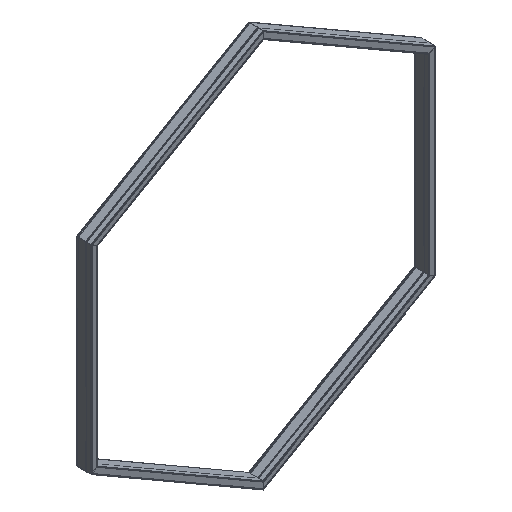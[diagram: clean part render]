
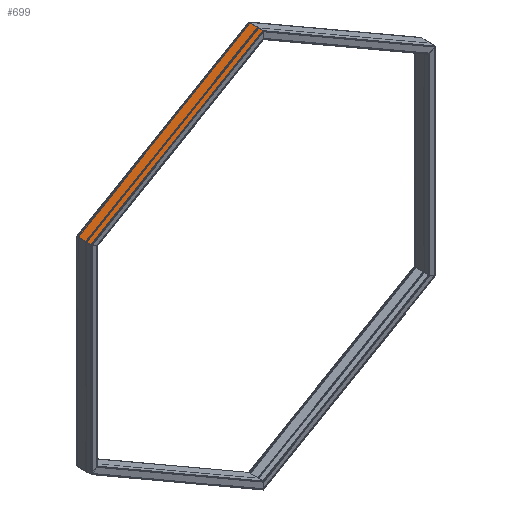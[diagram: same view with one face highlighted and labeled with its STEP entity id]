
A CAD part, isometric view. The second image highlights one B-rep face of the part: STEP entity #699.
In plain terms, the highlighted planar face has unit normal (-0.5, 0, 0.866) as drawn and (-1, 0, 0) by its records, which use the part's own axes.
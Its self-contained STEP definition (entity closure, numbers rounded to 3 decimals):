
#699=ADVANCED_FACE('',(#2714),#2716,.T.);
#2714=FACE_BOUND('',#2715,.T.);
#2715=EDGE_LOOP('',(#4848,#4849,#4850,#4851));
#2716=PLANE('',#2717);
#2717=AXIS2_PLACEMENT_3D('',#2718,#2719,#2720);
#2718=CARTESIAN_POINT('',(-17.5,4.,-516.5));
#2719=DIRECTION('',(-1.,0.,0.));
#2720=DIRECTION('',(0.,-1.,0.));
#4848=ORIENTED_EDGE('',*,*,#6375,.T.);
#4849=ORIENTED_EDGE('',*,*,#6374,.T.);
#4850=ORIENTED_EDGE('',*,*,#6376,.T.);
#4851=ORIENTED_EDGE('',*,*,#6377,.F.);
#6374=EDGE_CURVE('',#7944,#7946,#7948,.T.);
#6375=EDGE_CURVE('',#7949,#7944,#7950,.F.);
#6376=EDGE_CURVE('',#7946,#7951,#7952,.F.);
#6377=EDGE_CURVE('',#7949,#7951,#7953,.T.);
#7944=VERTEX_POINT('',#11536);
#7946=VERTEX_POINT('',#11541);
#7948=LINE('',#11546,#11547);
#7949=VERTEX_POINT('',#11549);
#7950=LINE('',#11550,#11551);
#7951=VERTEX_POINT('',#11553);
#7952=LINE('',#11554,#11555);
#7953=LINE('',#11557,#11558);
#11536=CARTESIAN_POINT('',(-17.5,-73.75,-516.5));
#11541=CARTESIAN_POINT('',(-17.5,-73.75,516.5));
#11546=CARTESIAN_POINT('',(-17.5,-73.75,-516.5));
#11547=VECTOR('',#11548,1.);
#11548=DIRECTION('',(0.,0.,1.));
#11549=CARTESIAN_POINT('',(-17.5,4.,-516.5));
#11550=CARTESIAN_POINT('',(-17.5,-73.75,-516.5));
#11551=VECTOR('',#11552,1.);
#11552=DIRECTION('',(0.,1.,0.));
#11553=CARTESIAN_POINT('',(-17.5,4.,516.5));
#11554=CARTESIAN_POINT('',(-17.5,4.,516.5));
#11555=VECTOR('',#11556,1.);
#11556=DIRECTION('',(0.,-1.,0.));
#11557=CARTESIAN_POINT('',(-17.5,4.,-516.5));
#11558=VECTOR('',#11559,1.);
#11559=DIRECTION('',(0.,0.,1.));
